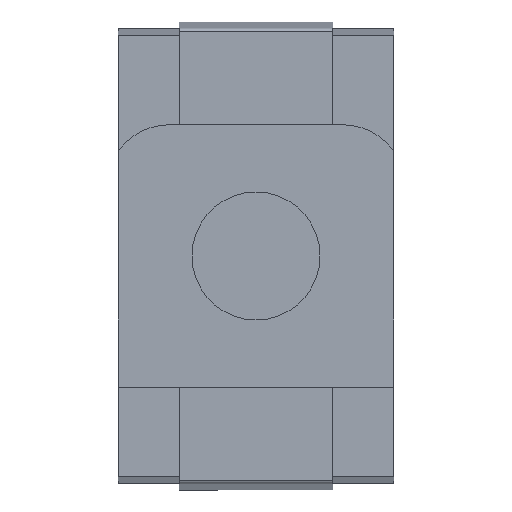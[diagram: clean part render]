
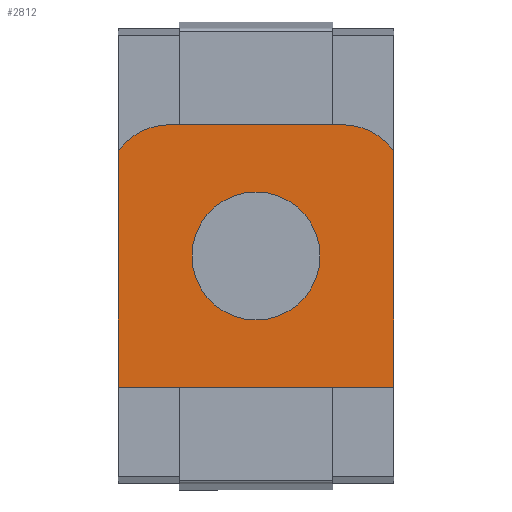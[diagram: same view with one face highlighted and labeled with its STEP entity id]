
A CAD part, front view. The second image highlights one B-rep face of the part: STEP entity #2812.
In plain terms, the highlighted planar face has unit normal (0, -1, 0) as drawn and (0, 1, 0) by its records, which use the part's own axes.
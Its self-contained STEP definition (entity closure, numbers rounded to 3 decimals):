
#2439=CARTESIAN_POINT('',(0.,0.95,0.));
#2440=DIRECTION('',(0.,1.,0.));
#2441=DIRECTION('',(0.,0.,1.));
#2442=AXIS2_PLACEMENT_3D('',#2439,#2440,#2441);
#2444=CARTESIAN_POINT('',(0.,0.95,0.));
#2445=DIRECTION('',(0.,1.,0.));
#2446=DIRECTION('',(0.,0.,-1.));
#2447=AXIS2_PLACEMENT_3D('',#2444,#2445,#2446);
#2449=DIRECTION('',(1.,0.,0.));
#2450=VECTOR('',#2449,4.3);
#2451=CARTESIAN_POINT('',(-2.15,0.95,-2.051));
#2452=LINE('',#2451,#2450);
#2453=DIRECTION('',(0.,0.,-1.));
#2454=VECTOR('',#2453,3.701);
#2455=CARTESIAN_POINT('',(2.15,0.95,1.65));
#2456=LINE('',#2455,#2454);
#2457=CARTESIAN_POINT('',(1.349,0.95,1.051));
#2458=DIRECTION('',(0.,1.,0.));
#2459=DIRECTION('',(-0.021,0.,1.));
#2460=AXIS2_PLACEMENT_3D('',#2457,#2458,#2459);
#2462=DIRECTION('',(-1.,0.,0.));
#2463=VECTOR('',#2462,2.657);
#2464=CARTESIAN_POINT('',(1.329,0.95,2.051));
#2465=LINE('',#2464,#2463);
#2466=CARTESIAN_POINT('',(-1.349,0.95,1.051));
#2467=DIRECTION('',(0.,1.,0.));
#2468=DIRECTION('',(-0.801,0.,0.599));
#2469=AXIS2_PLACEMENT_3D('',#2466,#2467,#2468);
#2471=DIRECTION('',(0.,0.,1.));
#2472=VECTOR('',#2471,3.701);
#2473=CARTESIAN_POINT('',(-2.15,0.95,-2.051));
#2474=LINE('',#2473,#2472);
#2563=CARTESIAN_POINT('',(0.,0.95,1.));
#2564=CARTESIAN_POINT('',(0.,0.95,-1.));
#2565=VERTEX_POINT('',#2563);
#2566=VERTEX_POINT('',#2564);
#2571=CARTESIAN_POINT('',(-2.15,0.95,-2.051));
#2572=CARTESIAN_POINT('',(2.15,0.95,-2.051));
#2573=VERTEX_POINT('',#2571);
#2574=VERTEX_POINT('',#2572);
#2583=CARTESIAN_POINT('',(1.329,0.95,2.051));
#2584=CARTESIAN_POINT('',(2.15,0.95,1.65));
#2585=VERTEX_POINT('',#2583);
#2586=VERTEX_POINT('',#2584);
#2587=CARTESIAN_POINT('',(-1.329,0.95,2.051));
#2588=VERTEX_POINT('',#2587);
#2589=CARTESIAN_POINT('',(-2.15,0.95,1.65));
#2590=VERTEX_POINT('',#2589);
#2789=CARTESIAN_POINT('',(0.,0.95,0.));
#2790=DIRECTION('',(0.,1.,0.));
#2791=DIRECTION('',(0.,0.,1.));
#2792=AXIS2_PLACEMENT_3D('',#2789,#2790,#2791);
#2793=PLANE('',#2792);
#2795=ORIENTED_EDGE('',*,*,#2794,.T.);
#2796=ORIENTED_EDGE('',*,*,#2721,.F.);
#2798=ORIENTED_EDGE('',*,*,#2797,.F.);
#2800=ORIENTED_EDGE('',*,*,#2799,.T.);
#2802=ORIENTED_EDGE('',*,*,#2801,.F.);
#2804=ORIENTED_EDGE('',*,*,#2803,.F.);
#2805=EDGE_LOOP('',(#2795,#2796,#2798,#2800,#2802,#2804));
#2806=FACE_OUTER_BOUND('',#2805,.F.);
#2807=ORIENTED_EDGE('',*,*,#2779,.T.);
#2809=ORIENTED_EDGE('',*,*,#2808,.T.);
#2810=EDGE_LOOP('',(#2807,#2809));
#2811=FACE_BOUND('',#2810,.F.);
#2812=ADVANCED_FACE('',(#2806,#2811),#2793,.T.);
#2443=CIRCLE('',#2442,1.);
#2448=CIRCLE('',#2447,1.);
#2461=CIRCLE('',#2460,1.);
#2470=CIRCLE('',#2469,1.);
#2721=EDGE_CURVE('',#2586,#2574,#2456,.T.);
#2779=EDGE_CURVE('',#2565,#2566,#2443,.T.);
#2794=EDGE_CURVE('',#2573,#2574,#2452,.T.);
#2797=EDGE_CURVE('',#2585,#2586,#2461,.T.);
#2799=EDGE_CURVE('',#2585,#2588,#2465,.T.);
#2801=EDGE_CURVE('',#2590,#2588,#2470,.T.);
#2803=EDGE_CURVE('',#2573,#2590,#2474,.T.);
#2808=EDGE_CURVE('',#2566,#2565,#2448,.T.);
